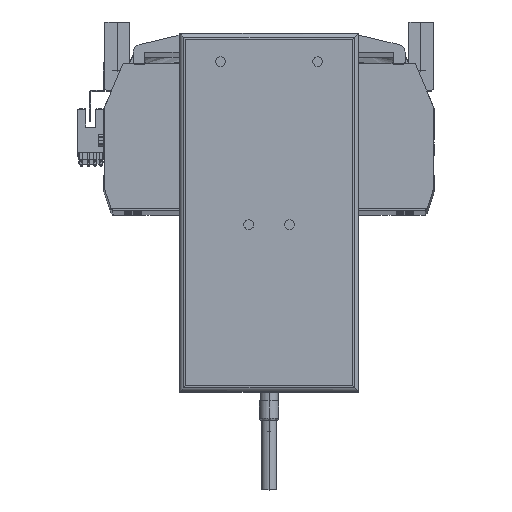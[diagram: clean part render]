
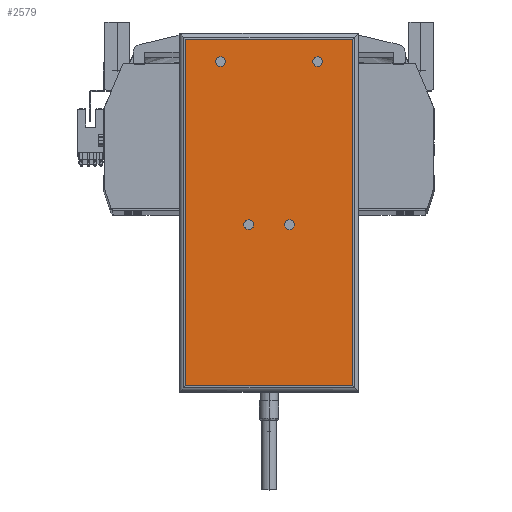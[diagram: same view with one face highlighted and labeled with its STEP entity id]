
A CAD part, top view. The second image highlights one B-rep face of the part: STEP entity #2579.
In plain terms, the highlighted planar face has unit normal (0, 0, 1) as drawn and (0, 0, -1) by its records, which use the part's own axes.
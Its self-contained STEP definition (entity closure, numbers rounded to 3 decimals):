
#94 = ORIENTED_EDGE ( 'NONE', *, *, #8466, .T. ) ;
#656 = CARTESIAN_POINT ( 'NONE',  ( -46., -92.25, 0. ) ) ;
#1025 = DIRECTION ( 'NONE',  ( 0., 0., -1. ) ) ;
#1572 = DIRECTION ( 'NONE',  ( 0., 0., -1. ) ) ;
#2447 = CIRCLE ( 'NONE', #14815, 2.5 ) ;
#2579 = ADVANCED_FACE ( 'NONE', ( #7708, #50120, #5109, #39203, #13489 ), #13109, .F. ) ;
#2594 = AXIS2_PLACEMENT_3D ( 'NONE', #52529, #27786, #3291 ) ;
#3291 = DIRECTION ( 'NONE',  ( -1., 0., 0. ) ) ;
#4571 = DIRECTION ( 'NONE',  ( -1., 0., 0. ) ) ;
#4763 = CIRCLE ( 'NONE', #2594, 2.5 ) ;
#5109 = FACE_BOUND ( 'NONE', #44309, .T. ) ;
#6330 = VERTEX_POINT ( 'NONE', #42265 ) ;
#6413 = LINE ( 'NONE', #38046, #24447 ) ;
#7708 = FACE_OUTER_BOUND ( 'NONE', #51987, .T. ) ;
#8465 = CARTESIAN_POINT ( 'NONE',  ( -8., -6.25, 0. ) ) ;
#8466 = EDGE_CURVE ( 'NONE', #22000, #32011, #19336, .T. ) ;
#8513 = DIRECTION ( 'NONE',  ( 0., -1., 0. ) ) ;
#8697 = EDGE_LOOP ( 'NONE', ( #29523, #42359 ) ) ;
#8750 = EDGE_CURVE ( 'NONE', #32011, #12603, #6413, .T. ) ;
#8859 = CARTESIAN_POINT ( 'NONE',  ( 43., -92.25, 0. ) ) ;
#8862 = ORIENTED_EDGE ( 'NONE', *, *, #48715, .F. ) ;
#9505 = DIRECTION ( 'NONE',  ( -1., 0., 0. ) ) ;
#10662 = LINE ( 'NONE', #8859, #49872 ) ;
#11121 = CARTESIAN_POINT ( 'NONE',  ( -43., -92.25, 0. ) ) ;
#11676 = EDGE_LOOP ( 'NONE', ( #17419, #44793 ) ) ;
#12209 = CARTESIAN_POINT ( 'NONE',  ( 10.5, -6.25, 0. ) ) ;
#12576 = DIRECTION ( 'NONE',  ( 1., 0., 0. ) ) ;
#12603 = VERTEX_POINT ( 'NONE', #26646 ) ;
#12837 = CIRCLE ( 'NONE', #31297, 2.5 ) ;
#12976 = DIRECTION ( 'NONE',  ( 0., 0., -1. ) ) ;
#13109 = PLANE ( 'NONE',  #21425 ) ;
#13266 = CARTESIAN_POINT ( 'NONE',  ( 43., -89.25, 0. ) ) ;
#13489 = FACE_BOUND ( 'NONE', #8697, .T. ) ;
#13561 = CIRCLE ( 'NONE', #48910, 2.5 ) ;
#13915 = AXIS2_PLACEMENT_3D ( 'NONE', #50306, #1025, #9505 ) ;
#14815 = AXIS2_PLACEMENT_3D ( 'NONE', #41257, #49320, #4571 ) ;
#15010 = DIRECTION ( 'NONE',  ( 0., 0., -1. ) ) ;
#15106 = CARTESIAN_POINT ( 'NONE',  ( -46., -89.25, 0. ) ) ;
#15276 = DIRECTION ( 'NONE',  ( -1., 0., 0. ) ) ;
#16284 = VERTEX_POINT ( 'NONE', #33666 ) ;
#17419 = ORIENTED_EDGE ( 'NONE', *, *, #18336, .F. ) ;
#17588 = EDGE_CURVE ( 'NONE', #24299, #44077, #4763, .T. ) ;
#17989 = VERTEX_POINT ( 'NONE', #31844 ) ;
#18174 = AXIS2_PLACEMENT_3D ( 'NONE', #22119, #1572, #30028 ) ;
#18203 = CARTESIAN_POINT ( 'NONE',  ( -22.5, 77.75, 0. ) ) ;
#18336 = EDGE_CURVE ( 'NONE', #44077, #24299, #24055, .T. ) ;
#18419 = CARTESIAN_POINT ( 'NONE',  ( -43., -89.25, 0. ) ) ;
#18614 = CARTESIAN_POINT ( 'NONE',  ( -25., 77.75, 0. ) ) ;
#19225 = EDGE_LOOP ( 'NONE', ( #41085, #8862 ) ) ;
#19336 = LINE ( 'NONE', #11121, #23207 ) ;
#20778 = EDGE_CURVE ( 'NONE', #51788, #6330, #12837, .T. ) ;
#21061 = DIRECTION ( 'NONE',  ( -1., 0., 0. ) ) ;
#21126 = ORIENTED_EDGE ( 'NONE', *, *, #52145, .T. ) ;
#21425 = AXIS2_PLACEMENT_3D ( 'NONE', #656, #49406, #12576 ) ;
#22000 = VERTEX_POINT ( 'NONE', #18419 ) ;
#22065 = EDGE_CURVE ( 'NONE', #6330, #51788, #42935, .T. ) ;
#22119 = CARTESIAN_POINT ( 'NONE',  ( 25., 77.75, 0. ) ) ;
#22370 = DIRECTION ( 'NONE',  ( -1., 0., 0. ) ) ;
#22986 = CARTESIAN_POINT ( 'NONE',  ( -27.5, 77.75, 0. ) ) ;
#23207 = VECTOR ( 'NONE', #27505, 1000. ) ;
#24055 = CIRCLE ( 'NONE', #26415, 2.5 ) ;
#24299 = VERTEX_POINT ( 'NONE', #18203 ) ;
#24447 = VECTOR ( 'NONE', #37510, 1000. ) ;
#25360 = CARTESIAN_POINT ( 'NONE',  ( 8., -6.25, 0. ) ) ;
#25371 = CARTESIAN_POINT ( 'NONE',  ( 10.5, -6.25, 0. ) ) ;
#25470 = CIRCLE ( 'NONE', #13915, 2.5 ) ;
#25852 = AXIS2_PLACEMENT_3D ( 'NONE', #12209, #40952, #36110 ) ;
#26415 = AXIS2_PLACEMENT_3D ( 'NONE', #18614, #15010, #22370 ) ;
#26429 = CIRCLE ( 'NONE', #18174, 2.5 ) ;
#26646 = CARTESIAN_POINT ( 'NONE',  ( 43., 89.25, 0. ) ) ;
#26975 = VERTEX_POINT ( 'NONE', #49207 ) ;
#27505 = DIRECTION ( 'NONE',  ( 0., 1., 0. ) ) ;
#27786 = DIRECTION ( 'NONE',  ( 0., 0., -1. ) ) ;
#27955 = DIRECTION ( 'NONE',  ( 0., 0., -1. ) ) ;
#28181 = ORIENTED_EDGE ( 'NONE', *, *, #8750, .T. ) ;
#28315 = CARTESIAN_POINT ( 'NONE',  ( -10.5, -6.25, 0. ) ) ;
#28428 = EDGE_CURVE ( 'NONE', #17989, #16284, #26429, .T. ) ;
#28495 = DIRECTION ( 'NONE',  ( -1., 0., 0. ) ) ;
#29523 = ORIENTED_EDGE ( 'NONE', *, *, #28428, .F. ) ;
#29890 = EDGE_CURVE ( 'NONE', #26975, #41745, #2447, .T. ) ;
#30028 = DIRECTION ( 'NONE',  ( -1., 0., 0. ) ) ;
#31297 = AXIS2_PLACEMENT_3D ( 'NONE', #25371, #12976, #21061 ) ;
#31844 = CARTESIAN_POINT ( 'NONE',  ( 22.5, 77.75, 0. ) ) ;
#32011 = VERTEX_POINT ( 'NONE', #39589 ) ;
#33666 = CARTESIAN_POINT ( 'NONE',  ( 27.5, 77.75, 0. ) ) ;
#35208 = LINE ( 'NONE', #15106, #53180 ) ;
#35865 = ORIENTED_EDGE ( 'NONE', *, *, #39099, .T. ) ;
#36110 = DIRECTION ( 'NONE',  ( -1., 0., 0. ) ) ;
#37510 = DIRECTION ( 'NONE',  ( 1., 0., 0. ) ) ;
#38046 = CARTESIAN_POINT ( 'NONE',  ( -46., 89.25, 0. ) ) ;
#38769 = VERTEX_POINT ( 'NONE', #13266 ) ;
#39099 = EDGE_CURVE ( 'NONE', #12603, #38769, #10662, .T. ) ;
#39203 = FACE_BOUND ( 'NONE', #11676, .T. ) ;
#39589 = CARTESIAN_POINT ( 'NONE',  ( -43., 89.25, 0. ) ) ;
#39706 = ORIENTED_EDGE ( 'NONE', *, *, #20778, .F. ) ;
#40952 = DIRECTION ( 'NONE',  ( 0., 0., -1. ) ) ;
#41085 = ORIENTED_EDGE ( 'NONE', *, *, #29890, .F. ) ;
#41257 = CARTESIAN_POINT ( 'NONE',  ( -10.5, -6.25, 0. ) ) ;
#41745 = VERTEX_POINT ( 'NONE', #8465 ) ;
#42265 = CARTESIAN_POINT ( 'NONE',  ( 13., -6.25, 0. ) ) ;
#42359 = ORIENTED_EDGE ( 'NONE', *, *, #52905, .F. ) ;
#42935 = CIRCLE ( 'NONE', #25852, 2.5 ) ;
#44077 = VERTEX_POINT ( 'NONE', #22986 ) ;
#44309 = EDGE_LOOP ( 'NONE', ( #39706, #51256 ) ) ;
#44793 = ORIENTED_EDGE ( 'NONE', *, *, #17588, .F. ) ;
#48715 = EDGE_CURVE ( 'NONE', #41745, #26975, #13561, .T. ) ;
#48910 = AXIS2_PLACEMENT_3D ( 'NONE', #28315, #27955, #28495 ) ;
#49207 = CARTESIAN_POINT ( 'NONE',  ( -13., -6.25, 0. ) ) ;
#49320 = DIRECTION ( 'NONE',  ( 0., 0., -1. ) ) ;
#49406 = DIRECTION ( 'NONE',  ( 0., 0., 1. ) ) ;
#49872 = VECTOR ( 'NONE', #8513, 1000. ) ;
#50120 = FACE_BOUND ( 'NONE', #19225, .T. ) ;
#50306 = CARTESIAN_POINT ( 'NONE',  ( 25., 77.75, 0. ) ) ;
#51256 = ORIENTED_EDGE ( 'NONE', *, *, #22065, .F. ) ;
#51788 = VERTEX_POINT ( 'NONE', #25360 ) ;
#51987 = EDGE_LOOP ( 'NONE', ( #35865, #21126, #94, #28181 ) ) ;
#52145 = EDGE_CURVE ( 'NONE', #38769, #22000, #35208, .T. ) ;
#52529 = CARTESIAN_POINT ( 'NONE',  ( -25., 77.75, 0. ) ) ;
#52905 = EDGE_CURVE ( 'NONE', #16284, #17989, #25470, .T. ) ;
#53180 = VECTOR ( 'NONE', #15276, 1000. ) ;
